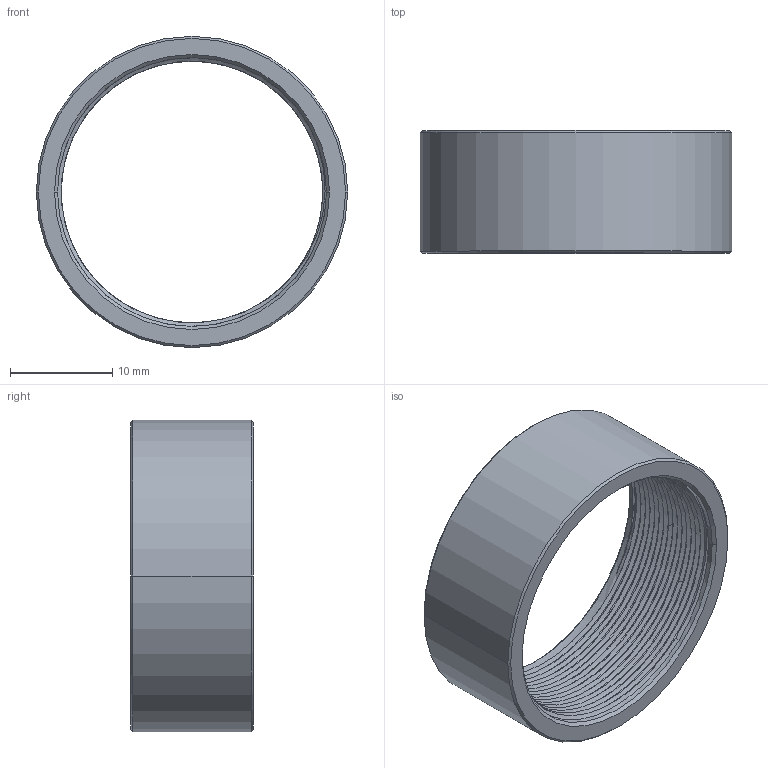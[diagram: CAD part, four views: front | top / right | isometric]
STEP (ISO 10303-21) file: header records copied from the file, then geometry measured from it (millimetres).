
FILE_DESCRIPTION((''),'2;1');
FILE_NAME('CSB-12','2020-10-15T',('Administrator'),(''),'CREO PARAMETRIC BY PTC INC, 2015290','CREO PARAMETRIC BY PTC INC, 2015290','');
FILE_SCHEMA(('CONFIG_CONTROL_DESIGN'));
Length unit declared in the file: millimetre
Products named in the file (1): CSB-12
Bounding box: 30.5 x 12 x 30.5 mm (x, y, z)
Volume: 2326.3 mm3; surface area: 2923.4 mm2
Topology: 1 solids, 1 shells, 58 faces, 155 edges, 99 vertices
Faces by surface type: cylinder 36, bspline 12, cone 8, plane 2
Entity records: 6095 total; most frequent: CARTESIAN_POINT 4798, ORIENTED_EDGE 310, DIRECTION 179, EDGE_CURVE 155, VERTEX_POINT 99, B_SPLINE_CURVE_WITH_KNOTS 84, AXIS2_PLACEMENT_3D 62, EDGE_LOOP 60
